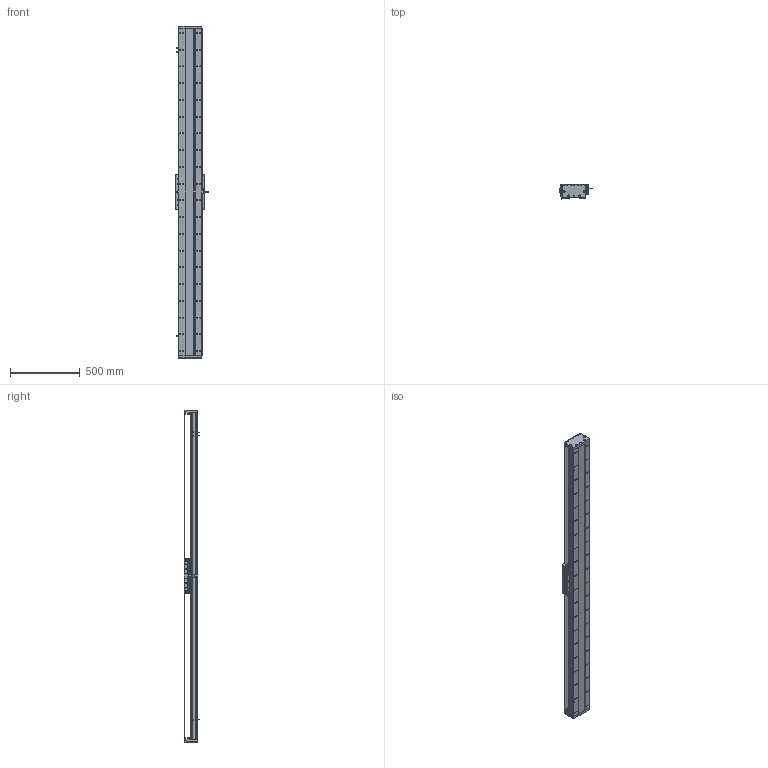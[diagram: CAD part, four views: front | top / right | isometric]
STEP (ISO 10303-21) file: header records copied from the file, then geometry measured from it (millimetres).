
FILE_DESCRIPTION (( 'STEP AP203' ), '1' );
FILE_NAME ('DA-C165-C3-T2040-C010-0.2 直线电机.STEP', '2023-06-13T08:50:50', ( '微软用户' ), ( '微软中国' ), 'SwSTEP 2.0', 'SolidWorks 2019', '' );
FILE_SCHEMA (( 'CONFIG_CONTROL_DESIGN' ));
Length unit declared in the file: millimetre
Products named in the file (18): 复件 DA165-GDYK-00 钢带压块^复件 CU165钢带组件_DA-C165-C3-T-C010-0.2-N 直线电机; 复件 CU165钢带组件^DA-C165-C3-T-C010-0.2-N 直线电机; 复件 DA165-GYP-00 光电感应片^DA-C165-C3-T-C010-0.2-N 直线电机; 复件 CU165 底座^IU-CU165-L 底座导轨_L2340; 复件 DMA-010-0.2 读数头^DA-C165-C3-T-C010-0.2-N 直线电机; IU-CU165-L 菁釱絳寢; 葩璃 CKM01-W075-TRL^DA-C165-C3-T-C010-0.2-N 眻盄萇儂; DA-C165-C3-T2040-C010-0.2 眻盄萇儂; 葩璃 PM-T45^DA-C165-C3-T-C010-0.2-N 眻盄萇儂; 珨极趙賑雄怢啣C3-wf; 复件 XD-U-02L 磁栅尺^DA-C165-C3-T-C010-0.2-N 直线电机_T; 复件 六角薄螺母 M3^DA-C165-C3-T-C010-0.2-N 直线电机_GB_FASTENER_NUT_STNAB M3-C; 复件 DA95-HXJ-00 缓冲橡胶^DA-C165-C3-T-C010-0.2-N 直线电机; 葩璃 DA95-GT-T-00^IU-CU165-L 菁釱絳寢_T; 葩璃 CKM03-W075-C1C2-TP-3.0^DA-C165-C3-T-C010-0.2-N 眻盄萇儂; 复件 DA165-GD-1860-002-00 钢带盖板^复件 CU165钢带组件_DA-C165-C3-T-C010-0.2-N 直线电机; 复件 DA165-GD-DG-H-00 端盖^复件 CU165钢带组件_DA-C165-C3-T-C010-0.2-N 直线电机; 复件 DA165-GDLK-00 钢带拉块^复件 CU165钢带组件_DA-C165-C3-T-C010-0.2-N 直线电机
Assembly tree (35 placements, depth 3):
  DA-C165-C3-T2040-C010-0.2 眻盄萇儂
    IU-CU165-L 菁釱絳寢
      复件 CU165 底座^IU-CU165-L 底座导轨_L2340
      葩璃 DA95-GT-T-00^IU-CU165-L 菁釱絳寢_T  x4
    复件 XD-U-02L 磁栅尺^DA-C165-C3-T-C010-0.2-N 直线电机_T
    葩璃 PM-T45^DA-C165-C3-T-C010-0.2-N 眻盄萇儂  x3
    葩璃 CKM01-W075-TRL^DA-C165-C3-T-C010-0.2-N 眻盄萇儂
    复件 CU165钢带组件^DA-C165-C3-T-C010-0.2-N 直线电机
      复件 DA165-GD-DG-H-00 端盖^复件 CU165钢带组件_DA-C165-C3-T-C010-0.2-N 直线电机  x2
      复件 DA165-GDYK-00 钢带压块^复件 CU165钢带组件_DA-C165-C3-T-C010-0.2-N 直线电机  x2
      复件 DA165-GD-1860-002-00 钢带盖板^复件 CU165钢带组件_DA-C165-C3-T-C010-0.2-N 直线电机
      复件 DA165-GDLK-00 钢带拉块^复件 CU165钢带组件_DA-C165-C3-T-C010-0.2-N 直线电机  x2
    复件 DA95-HXJ-00 缓冲橡胶^DA-C165-C3-T-C010-0.2-N 直线电机  x4
    复件 DA165-GYP-00 光电感应片^DA-C165-C3-T-C010-0.2-N 直线电机
    复件 DMA-010-0.2 读数头^DA-C165-C3-T-C010-0.2-N 直线电机
    葩璃 CKM03-W075-C1C2-TP-3.0^DA-C165-C3-T-C010-0.2-N 眻盄萇儂
    复件 六角薄螺母 M3^DA-C165-C3-T-C010-0.2-N 直线电机_GB_FASTENER_NUT_STNAB M3-C  x8
    珨极趙賑雄怢啣C3-wf
Bounding box: 233 x 111.45 x 2380 mm (x, y, z)
Volume: 13956050.2 mm3; surface area: 4102913.5 mm2
Topology: 72 solids, 122 shells, 4242 faces, 12047 edges, 7598 vertices
Faces by surface type: cylinder 2408, plane 1208, cone 576, torus 46, sphere 4
Entity records: 137909 total; most frequent: CARTESIAN_POINT 36771, ORIENTED_EDGE 20846, DIRECTION 20543, EDGE_CURVE 10423, AXIS2_PLACEMENT_3D 7884, VERTEX_POINT 6786, EDGE_LOOP 4867, LINE 4775
